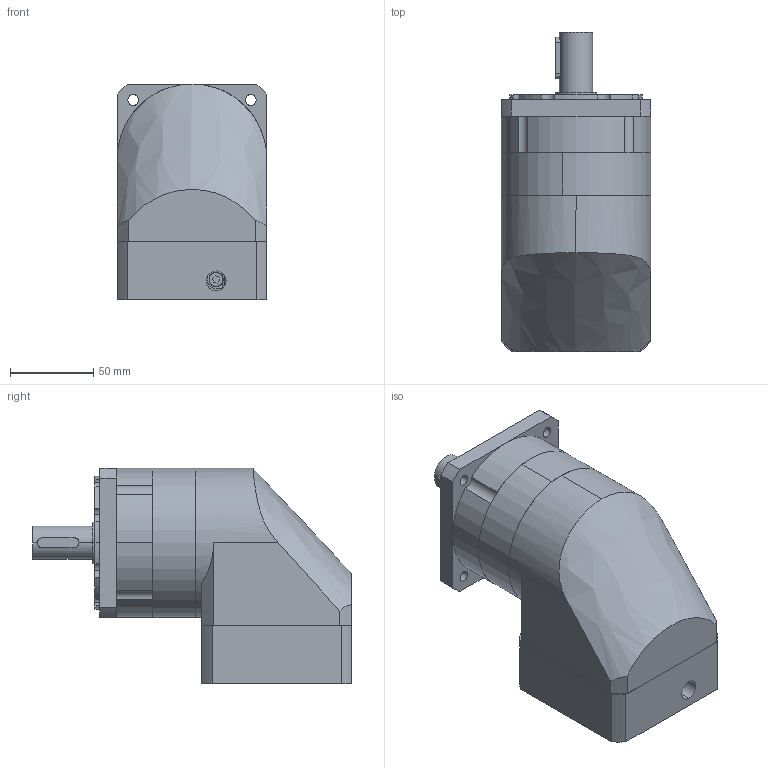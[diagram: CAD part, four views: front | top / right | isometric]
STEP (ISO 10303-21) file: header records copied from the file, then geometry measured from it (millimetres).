
FILE_DESCRIPTION (( 'STEP AP214' ), '1' );
FILE_NAME ('PFR090-L1-S2-P2 19-70-90-M6.STEP', '2023-08-26T05:42:15', ( '微软用户' ), ( '微软中国' ), 'SwSTEP 2.0', 'SolidWorks 2018', '' );
FILE_SCHEMA (( 'AUTOMOTIVE_DESIGN' ));
Length unit declared in the file: millimetre
Products named in the file (9): PFR090 奻屳唳_梓袧; PFR090-蟀諉啣; 邧埴瑩 6x6x25; PFR090-薊粣ん; PFR090 眊极_揤翉; PFR090內齿圈-优化_一级内齿圈; 粣創-3206A 30x62x23.8_2; PFR090-L1-S2-P2 19-70-90-M6; M5 x 20
Assembly tree (8 placements, depth 2):
  PFR090-L1-S2-P2 19-70-90-M6
    PFR090 眊极_揤翉
    PFR090內齿圈-优化_一级内齿圈
    PFR090 奻屳唳_梓袧
    PFR090-蟀諉啣
    PFR090-薊粣ん
    M5 x 20
    粣創-3206A 30x62x23.8_2
    邧埴瑩 6x6x25
Bounding box: 90 x 192 x 130 mm (x, y, z)
Volume: 1114781.5 mm3; surface area: 187823.9 mm2
Topology: 8 solids, 8 shells, 605 faces, 1695 edges, 1106 vertices
Faces by surface type: cylinder 236, plane 208, bspline 139, cone 22
Entity records: 30401 total; most frequent: CARTESIAN_POINT 8468, ORIENTED_EDGE 3366, DIRECTION 2966, EDGE_CURVE 1683, AXIS2_PLACEMENT_3D 1172, VERTEX_POINT 1106, CIRCLE 695, EDGE_LOOP 693
